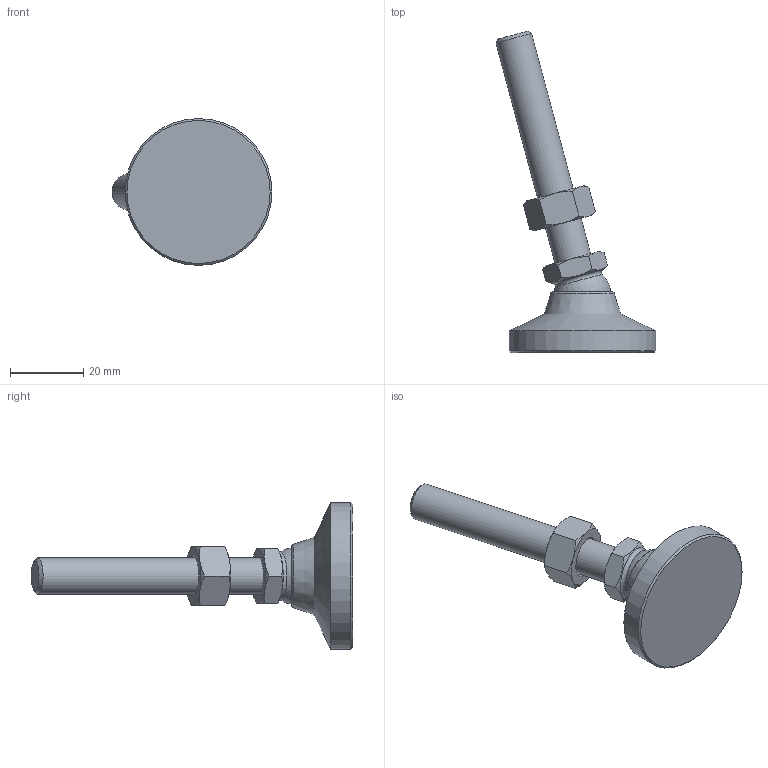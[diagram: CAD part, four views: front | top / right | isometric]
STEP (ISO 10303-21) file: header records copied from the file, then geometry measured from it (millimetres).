
FILE_DESCRIPTION( ( 'STEP AP214' ), ' ' );
FILE_NAME( 'O:/ganter_2015/teil_2/2_5/gn343_2/gn343_2_os/Levelling foot with threaded stud GN 343.2-40-M10-63-OS-(15).stp', '2015-10-26T09:07:19', ( '' ), ( '' ), ' ', 'PARTsolutions', ' ' );
FILE_SCHEMA( ( 'AUTOMOTIVE_DESIGN { 1 0 10303 214 1 1 1 1 }' ) );
Length unit declared in the file: millimetre
Products named in the file (4): Levelling foot with threaded stud GN 343.2-40-M10-63-OS-(15); _Levelling foot with threaded stud GN 343.2-40-M10-63-OS-(15)_foot; _Levelling foot with threaded stud GN 343.2-40-M10-63-OS-(15)_screw; _Stainless Steel-Levelling feet GN 343.2-40-M10-63-OS-(15)_nut
Assembly tree (3 placements, depth 2):
  Levelling foot with threaded stud GN 343.2-40-M10-63-OS-(15)
    _Levelling foot with threaded stud GN 343.2-40-M10-63-OS-(15)_foot
    _Levelling foot with threaded stud GN 343.2-40-M10-63-OS-(15)_screw
    _Stainless Steel-Levelling feet GN 343.2-40-M10-63-OS-(15)_nut
Bounding box: 43.56 x 87.57 x 40 mm (x, y, z)
Volume: 20609.5 mm3; surface area: 7851.7 mm2
Topology: 3 solids, 3 shells, 50 faces, 107 edges, 63 vertices
Faces by surface type: cone 25, plane 18, cylinder 3, torus 2, sphere 2
Full cylindrical faces by diameter (mm): 8.376 x1, 10 x1, 40 x1
Entity records: 1874 total; most frequent: CARTESIAN_POINT 468, DIRECTION 188, ORIENTED_EDGE 176, AXIS2_PLACEMENT_3D 88, EDGE_CURVE 88, EDGE_LOOP 66, VERTEX_POINT 60, FACE_OUTER_BOUND 55
